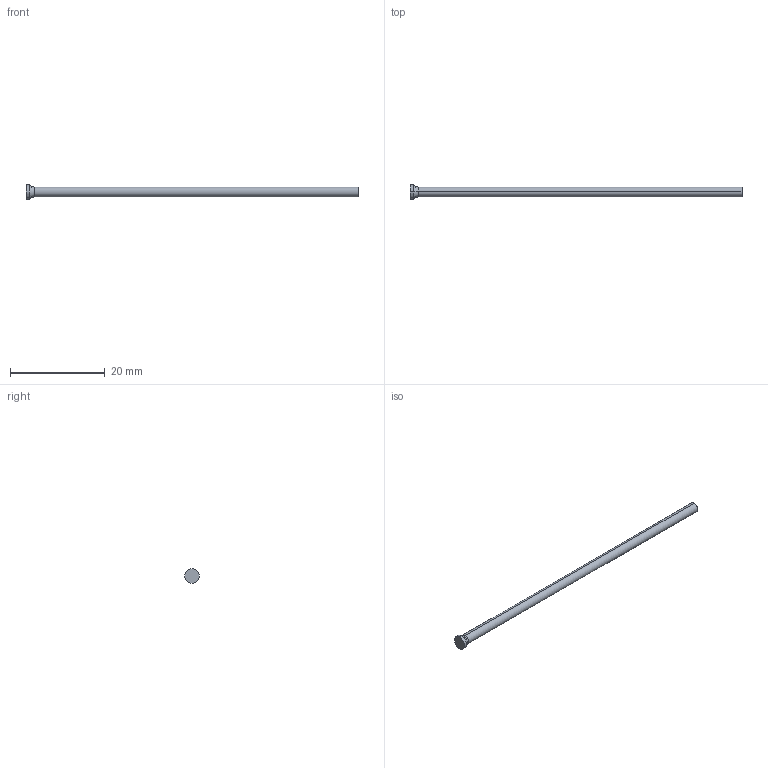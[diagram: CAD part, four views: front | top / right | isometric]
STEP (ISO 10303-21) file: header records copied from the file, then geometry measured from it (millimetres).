
FILE_DESCRIPTION (( 'STEP AP214' ), '1' );
FILE_NAME ('D-2,1x70.STEP', '2020-06-08T09:50:06', ( 'August' ), ( '' ), 'SwSTEP 2.0', 'SolidWorks 2018', '' );
FILE_SCHEMA (( 'AUTOMOTIVE_DESIGN' ));
Length unit declared in the file: millimetre
Products named in the file (1): D-2,1x70
Bounding box: 70 x 3 x 3 mm (x, y, z)
Volume: 246.2 mm3; surface area: 476.3 mm2
Topology: 1 solids, 1 shells, 10 faces, 18 edges, 10 vertices
Faces by surface type: cylinder 4, torus 2, cone 2, plane 2
Entity records: 280 total; most frequent: DIRECTION 52, CARTESIAN_POINT 39, ORIENTED_EDGE 36, AXIS2_PLACEMENT_3D 23, EDGE_CURVE 18, CIRCLE 12, FACE_OUTER_BOUND 10, ADVANCED_FACE 10
